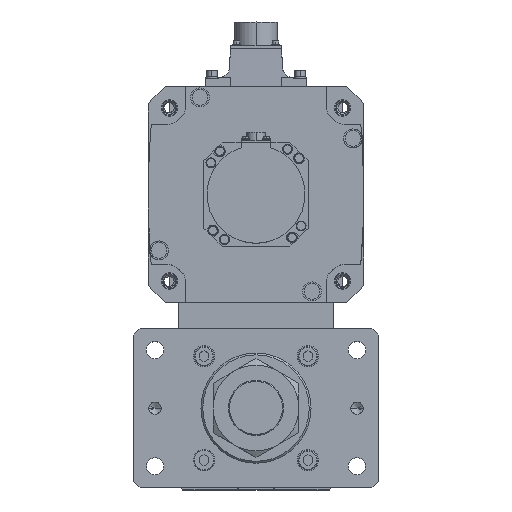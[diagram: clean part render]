
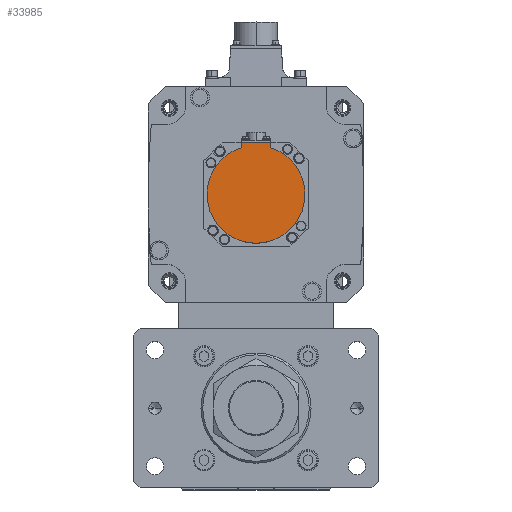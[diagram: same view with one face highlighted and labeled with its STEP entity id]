
A CAD part, top view. The second image highlights one B-rep face of the part: STEP entity #33985.
In plain terms, the highlighted planar face has unit normal (0, 0, 1) as drawn and (0, 0, -1) by its records, which use the part's own axes.
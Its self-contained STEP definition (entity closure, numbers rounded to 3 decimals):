
#480 = CARTESIAN_POINT ( 'NONE',  ( 0., 0., -138.5 ) ) ;
#651 = DIRECTION ( 'NONE',  ( 0., 0., 1. ) ) ;
#1039 = CARTESIAN_POINT ( 'NONE',  ( 40., 0., -138.5 ) ) ;
#3729 = DIRECTION ( 'NONE',  ( 0., 1., 0. ) ) ;
#4201 = LINE ( 'NONE', #31644, #15475 ) ;
#5994 = EDGE_CURVE ( 'NONE', #42955, #43929, #16153, .T. ) ;
#6094 = VECTOR ( 'NONE', #48405, 1000. ) ;
#7907 = CARTESIAN_POINT ( 'NONE',  ( -12., -42.5, -138.5 ) ) ;
#8032 = DIRECTION ( 'NONE',  ( 0., 1., 0. ) ) ;
#8174 = DIRECTION ( 'NONE',  ( 1., 0., 0. ) ) ;
#9534 = AXIS2_PLACEMENT_3D ( 'NONE', #39772, #19614, #27807 ) ;
#14325 = VERTEX_POINT ( 'NONE', #1039 ) ;
#15475 = VECTOR ( 'NONE', #8032, 1000. ) ;
#16153 = LINE ( 'NONE', #20269, #6094 ) ;
#16769 = CARTESIAN_POINT ( 'NONE',  ( 0., -1.249, -138.5 ) ) ;
#17751 = ORIENTED_EDGE ( 'NONE', *, *, #5994, .T. ) ;
#18349 = EDGE_CURVE ( 'NONE', #43222, #39555, #50728, .T. ) ;
#19495 = ORIENTED_EDGE ( 'NONE', *, *, #26091, .F. ) ;
#19614 = DIRECTION ( 'NONE',  ( 0., 0., 1. ) ) ;
#20026 = CARTESIAN_POINT ( 'NONE',  ( 12., -1.249, -138.5 ) ) ;
#20269 = CARTESIAN_POINT ( 'NONE',  ( 0., -42.5, -138.5 ) ) ;
#20793 = DIRECTION ( 'NONE',  ( 1., 0., 0. ) ) ;
#22695 = FACE_OUTER_BOUND ( 'NONE', #28222, .T. ) ;
#22897 = DIRECTION ( 'NONE',  ( 1., 0., 0. ) ) ;
#23112 = CARTESIAN_POINT ( 'NONE',  ( -12., -38.158, -138.5 ) ) ;
#23315 = LINE ( 'NONE', #20026, #45335 ) ;
#23421 = CARTESIAN_POINT ( 'NONE',  ( 0., 0., -138.5 ) ) ;
#25834 = AXIS2_PLACEMENT_3D ( 'NONE', #480, #651, #20793 ) ;
#26091 = EDGE_CURVE ( 'NONE', #14325, #43222, #28227, .T. ) ;
#27807 = DIRECTION ( 'NONE',  ( 1., 0., 0. ) ) ;
#28222 = EDGE_LOOP ( 'NONE', ( #40517, #49485, #19495, #40445, #34082, #17751 ) ) ;
#28227 = CIRCLE ( 'NONE', #38312, 40. ) ;
#29116 = VERTEX_POINT ( 'NONE', #45660 ) ;
#31644 = CARTESIAN_POINT ( 'NONE',  ( -12., -40.329, -138.5 ) ) ;
#33985 = ADVANCED_FACE ( 'NONE', ( #22695 ), #36733, .F. ) ;
#34082 = ORIENTED_EDGE ( 'NONE', *, *, #34432, .F. ) ;
#34432 = EDGE_CURVE ( 'NONE', #42955, #29116, #23315, .T. ) ;
#35652 = CARTESIAN_POINT ( 'NONE',  ( -40., 0., -138.5 ) ) ;
#36574 = CARTESIAN_POINT ( 'NONE',  ( 12., -42.5, -138.5 ) ) ;
#36709 = CIRCLE ( 'NONE', #25834, 40. ) ;
#36733 = PLANE ( 'NONE',  #40647 ) ;
#38312 = AXIS2_PLACEMENT_3D ( 'NONE', #23421, #51562, #22897 ) ;
#39555 = VERTEX_POINT ( 'NONE', #23112 ) ;
#39772 = CARTESIAN_POINT ( 'NONE',  ( 0., 0., -138.5 ) ) ;
#40445 = ORIENTED_EDGE ( 'NONE', *, *, #50976, .F. ) ;
#40517 = ORIENTED_EDGE ( 'NONE', *, *, #42872, .T. ) ;
#40614 = DIRECTION ( 'NONE',  ( 0., 0., 1. ) ) ;
#40647 = AXIS2_PLACEMENT_3D ( 'NONE', #16769, #40614, #8174 ) ;
#42872 = EDGE_CURVE ( 'NONE', #43929, #39555, #4201, .T. ) ;
#42955 = VERTEX_POINT ( 'NONE', #36574 ) ;
#43222 = VERTEX_POINT ( 'NONE', #35652 ) ;
#43929 = VERTEX_POINT ( 'NONE', #7907 ) ;
#45335 = VECTOR ( 'NONE', #3729, 1000. ) ;
#45660 = CARTESIAN_POINT ( 'NONE',  ( 12., -38.158, -138.5 ) ) ;
#48405 = DIRECTION ( 'NONE',  ( -1., 0., 0. ) ) ;
#49485 = ORIENTED_EDGE ( 'NONE', *, *, #18349, .F. ) ;
#50728 = CIRCLE ( 'NONE', #9534, 40. ) ;
#50976 = EDGE_CURVE ( 'NONE', #29116, #14325, #36709, .T. ) ;
#51562 = DIRECTION ( 'NONE',  ( 0., 0., 1. ) ) ;
